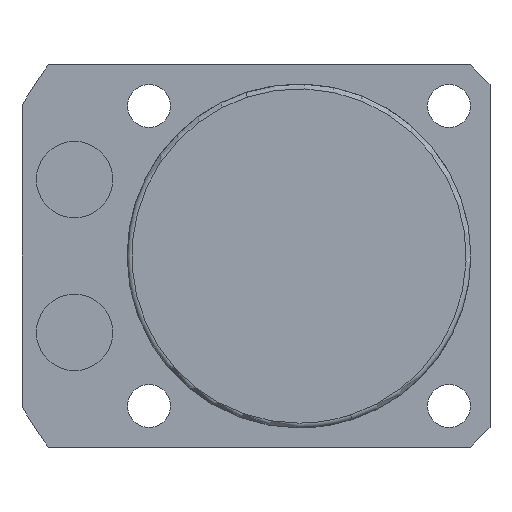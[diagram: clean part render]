
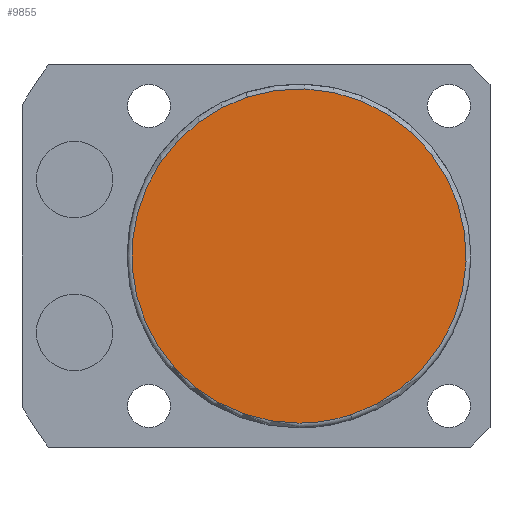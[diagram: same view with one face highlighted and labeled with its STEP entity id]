
A CAD part, front view. The second image highlights one B-rep face of the part: STEP entity #9855.
In plain terms, the highlighted planar face has unit normal (0, -1, 0).
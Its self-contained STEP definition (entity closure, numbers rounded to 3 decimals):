
#9821=CARTESIAN_POINT('',(0.0,-35.5,-17.5));
#9822=VERTEX_POINT('',#9821);
#9823=CARTESIAN_POINT('',(5.408,-35.5,-16.643));
#9824=VERTEX_POINT('',#9823);
#9825=CARTESIAN_POINT('',(0.0,-35.5,0.0));
#9826=DIRECTION('',(0.0,-1.0,0.0));
#9827=DIRECTION('',(0.0,0.0,-1.0));
#9828=AXIS2_PLACEMENT_3D('',#9825,#9826,#9827);
#9829=CIRCLE('',#9828,17.5);
#9830=EDGE_CURVE('no 4710',#9822,#9824,#9829,.T.);
#9831=ORIENTED_EDGE('',*,*,#9830,.T.);
#9832=CARTESIAN_POINT('',(-5.408,-35.5,16.643));
#9833=VERTEX_POINT('',#9832);
#9834=CARTESIAN_POINT('',(0.0,-35.5,0.0));
#9835=DIRECTION('',(0.0,-1.0,0.0));
#9836=DIRECTION('',(0.0,0.0,-1.0));
#9837=AXIS2_PLACEMENT_3D('',#9834,#9835,#9836);
#9838=CIRCLE('',#9837,17.5);
#9839=EDGE_CURVE('no 4716',#9824,#9833,#9838,.T.);
#9840=ORIENTED_EDGE('',*,*,#9839,.T.);
#9841=CARTESIAN_POINT('',(0.0,-35.5,0.0));
#9842=DIRECTION('',(0.0,-1.0,0.0));
#9843=DIRECTION('',(0.0,0.0,-1.0));
#9844=AXIS2_PLACEMENT_3D('',#9841,#9842,#9843);
#9845=CIRCLE('',#9844,17.5);
#9846=EDGE_CURVE('no 4720',#9833,#9822,#9845,.T.);
#9847=ORIENTED_EDGE('',*,*,#9846,.T.);
#9848=EDGE_LOOP('',(#9831,#9840,#9847));
#9849=FACE_OUTER_BOUND('',#9848,.T.);
#9850=CARTESIAN_POINT('',(0.0,-35.5,0.0));
#9851=DIRECTION('',(0.0,-1.0,0.0));
#9852=DIRECTION('',(0.0,0.0,-1.0));
#9853=AXIS2_PLACEMENT_3D('',#9850,#9851,#9852);
#9854=PLANE('',#9853);
#9855=ADVANCED_FACE('no 4701',(#9849),#9854,.T.);
